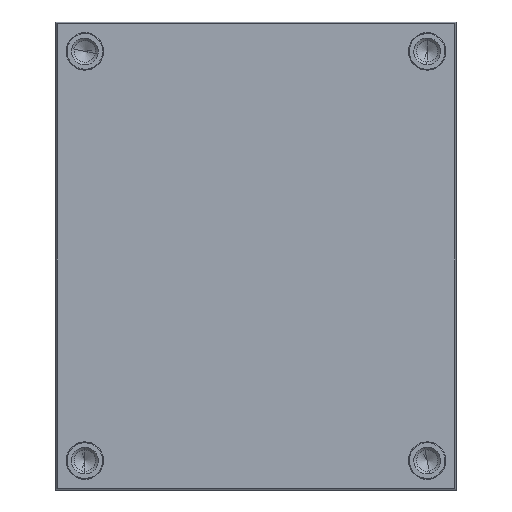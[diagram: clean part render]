
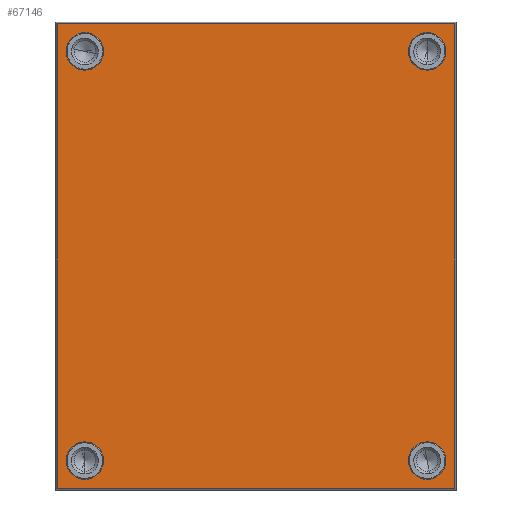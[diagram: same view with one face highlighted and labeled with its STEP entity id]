
A CAD part, front view. The second image highlights one B-rep face of the part: STEP entity #67146.
In plain terms, the highlighted planar face has unit normal (0, -1, 0).
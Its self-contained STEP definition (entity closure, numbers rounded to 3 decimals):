
#93 = EDGE_CURVE ( 'NONE', #309, #35532, #77197, .T. ) ;
#193 = AXIS2_PLACEMENT_3D ( 'NONE', #70588, #24650, #44448 ) ;
#309 = VERTEX_POINT ( 'NONE', #74100 ) ;
#805 = EDGE_CURVE ( 'NONE', #56328, #15170, #23656, .T. ) ;
#1709 = EDGE_CURVE ( 'NONE', #7917, #10416, #43019, .T. ) ;
#2790 = DIRECTION ( 'NONE',  ( 0., 1., 0. ) ) ;
#3002 = DIRECTION ( 'NONE',  ( 0., 1., 0. ) ) ;
#5080 = DIRECTION ( 'NONE',  ( 0., 0., 1. ) ) ;
#5504 = CARTESIAN_POINT ( 'NONE',  ( 12.8, 0., 13.9 ) ) ;
#6360 = DIRECTION ( 'NONE',  ( -1., 0., 0. ) ) ;
#7917 = VERTEX_POINT ( 'NONE', #21557 ) ;
#8327 = FACE_BOUND ( 'NONE', #28641, .T. ) ;
#8378 = DIRECTION ( 'NONE',  ( 0., 0., 1. ) ) ;
#8494 = CARTESIAN_POINT ( 'NONE',  ( 12.8, 0., -15.3 ) ) ;
#8926 = ORIENTED_EDGE ( 'NONE', *, *, #41603, .T. ) ;
#9260 = EDGE_CURVE ( 'NONE', #7917, #13323, #11274, .T. ) ;
#9293 = ORIENTED_EDGE ( 'NONE', *, *, #79154, .T. ) ;
#10416 = VERTEX_POINT ( 'NONE', #29236 ) ;
#11274 = LINE ( 'NONE', #20849, #44140 ) ;
#12212 = VECTOR ( 'NONE', #8378, 1000. ) ;
#12387 = EDGE_LOOP ( 'NONE', ( #8926, #23091 ) ) ;
#13323 = VERTEX_POINT ( 'NONE', #77084 ) ;
#13976 = DIRECTION ( 'NONE',  ( 0., 0., 1. ) ) ;
#15090 = DIRECTION ( 'NONE',  ( 0., 0., 1. ) ) ;
#15170 = VERTEX_POINT ( 'NONE', #5504 ) ;
#17022 = VERTEX_POINT ( 'NONE', #18917 ) ;
#17725 = EDGE_CURVE ( 'NONE', #13323, #17022, #18033, .T. ) ;
#17971 = AXIS2_PLACEMENT_3D ( 'NONE', #83676, #44353, #5080 ) ;
#18033 = LINE ( 'NONE', #46673, #20102 ) ;
#18057 = DIRECTION ( 'NONE',  ( 0., 1., 0. ) ) ;
#18093 = AXIS2_PLACEMENT_3D ( 'NONE', #69212, #29841, #75823 ) ;
#18917 = CARTESIAN_POINT ( 'NONE',  ( -14.857, 0., 17.357 ) ) ;
#20102 = VECTOR ( 'NONE', #13976, 1000. ) ;
#20221 = VERTEX_POINT ( 'NONE', #25332 ) ;
#20849 = CARTESIAN_POINT ( 'NONE',  ( 15., 0., -17.357 ) ) ;
#21487 = ORIENTED_EDGE ( 'NONE', *, *, #61416, .T. ) ;
#21557 = CARTESIAN_POINT ( 'NONE',  ( 14.857, 0., -17.357 ) ) ;
#21988 = ORIENTED_EDGE ( 'NONE', *, *, #80148, .T. ) ;
#22130 = ORIENTED_EDGE ( 'NONE', *, *, #93, .T. ) ;
#22240 = CIRCLE ( 'NONE', #47062, 1.4 ) ;
#22721 = CIRCLE ( 'NONE', #45168, 1.4 ) ;
#23091 = ORIENTED_EDGE ( 'NONE', *, *, #83557, .T. ) ;
#23656 = CIRCLE ( 'NONE', #18093, 1.4 ) ;
#23696 = FACE_BOUND ( 'NONE', #12387, .T. ) ;
#24650 = DIRECTION ( 'NONE',  ( 0., 1., 0. ) ) ;
#25332 = CARTESIAN_POINT ( 'NONE',  ( -12.8, 0., -16.7 ) ) ;
#25403 = CARTESIAN_POINT ( 'NONE',  ( -12.8, 0., -13.9 ) ) ;
#27431 = DIRECTION ( 'NONE',  ( -1., 0., 0. ) ) ;
#28493 = EDGE_LOOP ( 'NONE', ( #65908, #57169, #37683, #84985 ) ) ;
#28641 = EDGE_LOOP ( 'NONE', ( #74397, #21487 ) ) ;
#29236 = CARTESIAN_POINT ( 'NONE',  ( 14.857, 0., 17.357 ) ) ;
#29345 = ORIENTED_EDGE ( 'NONE', *, *, #805, .T. ) ;
#29841 = DIRECTION ( 'NONE',  ( 0., 1., 0. ) ) ;
#30584 = CARTESIAN_POINT ( 'NONE',  ( 12.8, 0., -13.9 ) ) ;
#30845 = VERTEX_POINT ( 'NONE', #30584 ) ;
#31190 = AXIS2_PLACEMENT_3D ( 'NONE', #42266, #3002, #48878 ) ;
#31363 = CIRCLE ( 'NONE', #31190, 1.4 ) ;
#32467 = CARTESIAN_POINT ( 'NONE',  ( -12.8, 0., 15.3 ) ) ;
#33398 = VERTEX_POINT ( 'NONE', #80149 ) ;
#35532 = VERTEX_POINT ( 'NONE', #39488 ) ;
#36956 = DIRECTION ( 'NONE',  ( 0., 1., 0. ) ) ;
#37683 = ORIENTED_EDGE ( 'NONE', *, *, #44753, .T. ) ;
#37812 = PLANE ( 'NONE',  #193 ) ;
#39070 = DIRECTION ( 'NONE',  ( 0., 0., 1. ) ) ;
#39488 = CARTESIAN_POINT ( 'NONE',  ( -12.8, 0., 16.7 ) ) ;
#40726 = AXIS2_PLACEMENT_3D ( 'NONE', #42064, #2790, #48665 ) ;
#41132 = FACE_BOUND ( 'NONE', #44490, .T. ) ;
#41603 = EDGE_CURVE ( 'NONE', #20221, #45993, #55203, .T. ) ;
#42064 = CARTESIAN_POINT ( 'NONE',  ( 12.8, 0., -15.3 ) ) ;
#42266 = CARTESIAN_POINT ( 'NONE',  ( 12.8, 0., 15.3 ) ) ;
#43019 = LINE ( 'NONE', #47662, #12212 ) ;
#44140 = VECTOR ( 'NONE', #27431, 1000. ) ;
#44353 = DIRECTION ( 'NONE',  ( 0., 1., 0. ) ) ;
#44448 = DIRECTION ( 'NONE',  ( 0., 0., 1. ) ) ;
#44490 = EDGE_LOOP ( 'NONE', ( #21988, #29345 ) ) ;
#44753 = EDGE_CURVE ( 'NONE', #10416, #17022, #49599, .T. ) ;
#45168 = AXIS2_PLACEMENT_3D ( 'NONE', #57411, #18057, #63986 ) ;
#45993 = VERTEX_POINT ( 'NONE', #25403 ) ;
#46557 = AXIS2_PLACEMENT_3D ( 'NONE', #76334, #36956, #82902 ) ;
#46673 = CARTESIAN_POINT ( 'NONE',  ( -14.857, 0., -17.5 ) ) ;
#47062 = AXIS2_PLACEMENT_3D ( 'NONE', #8494, #54404, #15090 ) ;
#47540 = VECTOR ( 'NONE', #6360, 1000. ) ;
#47662 = CARTESIAN_POINT ( 'NONE',  ( 14.857, 0., -17.5 ) ) ;
#48665 = DIRECTION ( 'NONE',  ( 0., 0., 1. ) ) ;
#48878 = DIRECTION ( 'NONE',  ( 0., 0., 1. ) ) ;
#49599 = LINE ( 'NONE', #65461, #47540 ) ;
#51341 = EDGE_LOOP ( 'NONE', ( #22130, #9293 ) ) ;
#54404 = DIRECTION ( 'NONE',  ( 0., 1., 0. ) ) ;
#55203 = CIRCLE ( 'NONE', #17971, 1.4 ) ;
#56328 = VERTEX_POINT ( 'NONE', #70084 ) ;
#57169 = ORIENTED_EDGE ( 'NONE', *, *, #1709, .T. ) ;
#57411 = CARTESIAN_POINT ( 'NONE',  ( -12.8, 0., -15.3 ) ) ;
#58621 = FACE_BOUND ( 'NONE', #51341, .T. ) ;
#59132 = CIRCLE ( 'NONE', #40726, 1.4 ) ;
#61416 = EDGE_CURVE ( 'NONE', #30845, #33398, #59132, .T. ) ;
#63986 = DIRECTION ( 'NONE',  ( 0., 0., 1. ) ) ;
#64439 = CIRCLE ( 'NONE', #46557, 1.4 ) ;
#65461 = CARTESIAN_POINT ( 'NONE',  ( 15., 0., 17.357 ) ) ;
#65908 = ORIENTED_EDGE ( 'NONE', *, *, #9260, .F. ) ;
#67146 = ADVANCED_FACE ( 'NONE', ( #41132, #23696, #8327, #58621, #74040 ), #37812, .F. ) ;
#69212 = CARTESIAN_POINT ( 'NONE',  ( 12.8, 0., 15.3 ) ) ;
#69640 = EDGE_CURVE ( 'NONE', #33398, #30845, #22240, .T. ) ;
#70084 = CARTESIAN_POINT ( 'NONE',  ( 12.8, 0., 16.7 ) ) ;
#70588 = CARTESIAN_POINT ( 'NONE',  ( -15., 0., 17.5 ) ) ;
#74040 = FACE_OUTER_BOUND ( 'NONE', #28493, .T. ) ;
#74100 = CARTESIAN_POINT ( 'NONE',  ( -12.8, 0., 13.9 ) ) ;
#74397 = ORIENTED_EDGE ( 'NONE', *, *, #69640, .T. ) ;
#75823 = DIRECTION ( 'NONE',  ( 0., 0., 1. ) ) ;
#75867 = AXIS2_PLACEMENT_3D ( 'NONE', #32467, #78427, #39070 ) ;
#76334 = CARTESIAN_POINT ( 'NONE',  ( -12.8, 0., 15.3 ) ) ;
#77084 = CARTESIAN_POINT ( 'NONE',  ( -14.857, 0., -17.357 ) ) ;
#77197 = CIRCLE ( 'NONE', #75867, 1.4 ) ;
#78427 = DIRECTION ( 'NONE',  ( 0., 1., 0. ) ) ;
#79154 = EDGE_CURVE ( 'NONE', #35532, #309, #64439, .T. ) ;
#80148 = EDGE_CURVE ( 'NONE', #15170, #56328, #31363, .T. ) ;
#80149 = CARTESIAN_POINT ( 'NONE',  ( 12.8, 0., -16.7 ) ) ;
#82902 = DIRECTION ( 'NONE',  ( 0., 0., 1. ) ) ;
#83557 = EDGE_CURVE ( 'NONE', #45993, #20221, #22721, .T. ) ;
#83676 = CARTESIAN_POINT ( 'NONE',  ( -12.8, 0., -15.3 ) ) ;
#84985 = ORIENTED_EDGE ( 'NONE', *, *, #17725, .F. ) ;
